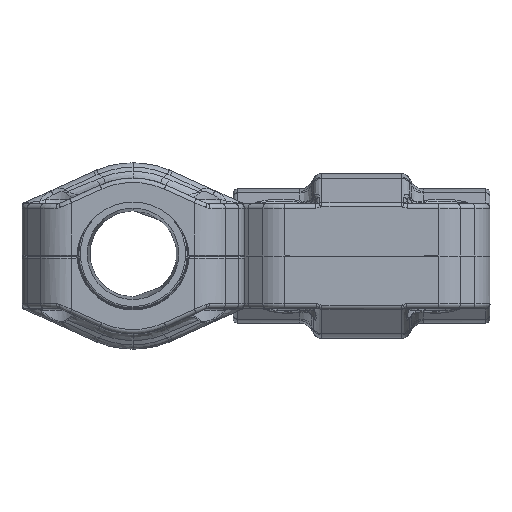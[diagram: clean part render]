
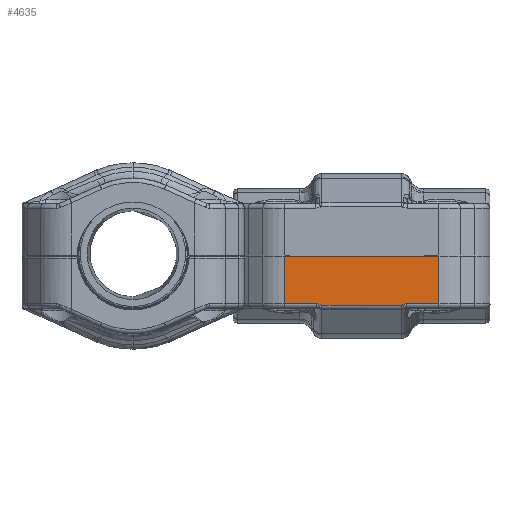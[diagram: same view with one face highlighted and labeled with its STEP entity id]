
A CAD part, left-side view. The second image highlights one B-rep face of the part: STEP entity #4635.
In plain terms, the highlighted planar face has unit normal (-1, 0, 0).
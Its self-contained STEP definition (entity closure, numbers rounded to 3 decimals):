
#795=(
BOUNDED_CURVE()
B_SPLINE_CURVE(3,(#60358,#60359,#60360,#60361),.UNSPECIFIED.,.F.,.F.)
B_SPLINE_CURVE_WITH_KNOTS((4,4),(0.,1.),.UNSPECIFIED.)
CURVE()
GEOMETRIC_REPRESENTATION_ITEM()
RATIONAL_B_SPLINE_CURVE((1.118,1.101,1.101,
1.118))
REPRESENTATION_ITEM('')
);
#2742=B_SPLINE_CURVE_WITH_KNOTS('',3,(#59707,#59708,#59709,#59710,#59711,
#59712,#59713),.UNSPECIFIED.,.F.,.F.,(4,1,1,1,4),(0.,0.25,0.5,0.75,1.),.UNSPECIFIED.);
#2760=B_SPLINE_CURVE_WITH_KNOTS('',3,(#60369,#60370,#60371,#60372,#60373,
#60374,#60375),.UNSPECIFIED.,.F.,.F.,(4,1,1,1,4),(0.,0.25,0.5,0.75,1.),.UNSPECIFIED.);
#2761=B_SPLINE_CURVE_WITH_KNOTS('',3,(#60377,#60378,#60379,#60380),.UNSPECIFIED.,
 .F.,.F.,(4,4),(0.,1.),.UNSPECIFIED.);
#4635=ADVANCED_FACE('',(#6863),#5936,.T.);
#5936=PLANE('',#34113);
#6863=FACE_OUTER_BOUND('',#8836,.T.);
#8836=EDGE_LOOP('',(#15739,#15740,#15741,#15742,#15743,#15744,#15745,#15746,
#15747,#15748));
#15739=ORIENTED_EDGE('',*,*,#26973,.F.);
#15740=ORIENTED_EDGE('',*,*,#26927,.T.);
#15741=ORIENTED_EDGE('',*,*,#26925,.T.);
#15742=ORIENTED_EDGE('',*,*,#26972,.T.);
#15743=ORIENTED_EDGE('',*,*,#26974,.T.);
#15744=ORIENTED_EDGE('',*,*,#26975,.T.);
#15745=ORIENTED_EDGE('',*,*,#26976,.F.);
#15746=ORIENTED_EDGE('',*,*,#26977,.F.);
#15747=ORIENTED_EDGE('',*,*,#26978,.F.);
#15748=ORIENTED_EDGE('',*,*,#26979,.T.);
#23105=VERTEX_POINT('',#59702);
#23106=VERTEX_POINT('',#59704);
#23107=VERTEX_POINT('',#59714);
#23131=VERTEX_POINT('',#60355);
#23132=VERTEX_POINT('',#60362);
#23133=VERTEX_POINT('',#60364);
#23134=VERTEX_POINT('',#60366);
#23135=VERTEX_POINT('',#60368);
#23136=VERTEX_POINT('',#60376);
#23137=VERTEX_POINT('',#60381);
#26925=EDGE_CURVE('',#23106,#23105,#30561,.T.);
#26927=EDGE_CURVE('',#23107,#23106,#2742,.T.);
#26972=EDGE_CURVE('',#23105,#23131,#30566,.T.);
#26973=EDGE_CURVE('',#23107,#23132,#795,.T.);
#26974=EDGE_CURVE('',#23131,#23133,#30567,.T.);
#26975=EDGE_CURVE('',#23133,#23134,#30568,.T.);
#26976=EDGE_CURVE('',#23135,#23134,#30569,.T.);
#26977=EDGE_CURVE('',#23136,#23135,#2760,.T.);
#26978=EDGE_CURVE('',#23137,#23136,#2761,.T.);
#26979=EDGE_CURVE('',#23137,#23132,#30570,.T.);
#30561=LINE('',#59703,#31900);
#30566=LINE('',#60356,#31905);
#30567=LINE('',#60363,#31906);
#30568=LINE('',#60365,#31907);
#30569=LINE('',#60367,#31908);
#30570=LINE('',#60382,#31909);
#31900=VECTOR('',#39148,1.);
#31905=VECTOR('',#39217,1.);
#31906=VECTOR('',#39220,1.);
#31907=VECTOR('',#39221,1.);
#31908=VECTOR('',#39222,1.);
#31909=VECTOR('',#39223,1.);
#34113=AXIS2_PLACEMENT_3D('',#60383,#39224,#39225);
#39148=DIRECTION('',(0.,-1.,0.));
#39217=DIRECTION('',(0.,0.,1.));
#39220=DIRECTION('',(0.,1.,0.));
#39221=DIRECTION('',(0.,0.,-1.));
#39222=DIRECTION('',(0.,1.,0.));
#39223=DIRECTION('',(0.,-1.,0.));
#39224=DIRECTION('',(-1.,0.,0.));
#39225=DIRECTION('',(0.,1.,0.));
#59702=CARTESIAN_POINT('',(26.5,-19.255,-26.05));
#59703=CARTESIAN_POINT('',(26.5,-11.893,-26.05));
#59704=CARTESIAN_POINT('',(26.5,-11.893,-26.05));
#59707=CARTESIAN_POINT('',(26.5,-10.989,-26.254));
#59708=CARTESIAN_POINT('',(26.5,-11.065,-26.219));
#59709=CARTESIAN_POINT('',(26.5,-11.217,-26.159));
#59710=CARTESIAN_POINT('',(26.5,-11.446,-26.095));
#59711=CARTESIAN_POINT('',(26.5,-11.673,-26.058));
#59712=CARTESIAN_POINT('',(26.5,-11.82,-26.05));
#59713=CARTESIAN_POINT('',(26.5,-11.893,-26.05));
#59714=CARTESIAN_POINT('',(26.5,-10.989,-26.254));
#60355=CARTESIAN_POINT('',(26.5,-19.255,-15.05));
#60356=CARTESIAN_POINT('',(26.5,-19.255,-26.05));
#60358=CARTESIAN_POINT('',(26.5,-10.989,-26.254));
#60359=CARTESIAN_POINT('',(26.5,-10.865,-26.311));
#60360=CARTESIAN_POINT('',(26.5,-10.731,-26.341));
#60361=CARTESIAN_POINT('',(26.5,-10.594,-26.341));
#60362=CARTESIAN_POINT('',(26.5,-10.594,-26.341));
#60363=CARTESIAN_POINT('',(26.5,-19.255,-15.05));
#60364=CARTESIAN_POINT('',(26.5,16.255,-15.05));
#60365=CARTESIAN_POINT('',(26.5,16.255,-15.05));
#60366=CARTESIAN_POINT('',(26.5,16.255,-26.05));
#60367=CARTESIAN_POINT('',(26.5,8.893,-26.05));
#60368=CARTESIAN_POINT('',(26.5,8.893,-26.05));
#60369=CARTESIAN_POINT('',(26.5,7.989,-26.253));
#60370=CARTESIAN_POINT('',(26.5,8.065,-26.219));
#60371=CARTESIAN_POINT('',(26.5,8.217,-26.159));
#60372=CARTESIAN_POINT('',(26.5,8.446,-26.095));
#60373=CARTESIAN_POINT('',(26.5,8.673,-26.058));
#60374=CARTESIAN_POINT('',(26.5,8.82,-26.05));
#60375=CARTESIAN_POINT('',(26.5,8.893,-26.05));
#60376=CARTESIAN_POINT('',(26.5,7.989,-26.253));
#60377=CARTESIAN_POINT('',(26.5,7.594,-26.341));
#60378=CARTESIAN_POINT('',(26.5,7.729,-26.341));
#60379=CARTESIAN_POINT('',(26.5,7.867,-26.31));
#60380=CARTESIAN_POINT('',(26.5,7.989,-26.253));
#60381=CARTESIAN_POINT('',(26.5,7.594,-26.341));
#60382=CARTESIAN_POINT('',(26.5,7.594,-26.341));
#60383=CARTESIAN_POINT('',(26.5,-1.5,-15.05));
